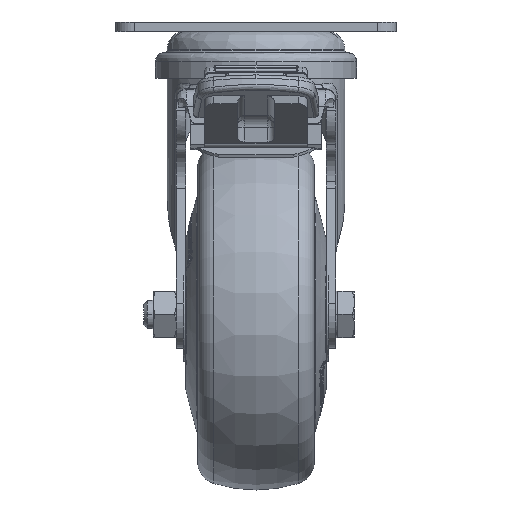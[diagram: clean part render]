
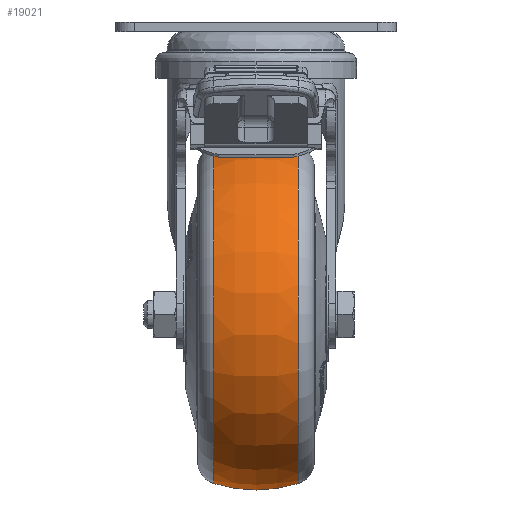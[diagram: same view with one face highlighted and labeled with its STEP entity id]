
A CAD part, top view. The second image highlights one B-rep face of the part: STEP entity #19021.
In plain terms, the highlighted toroidal (fillet/blend) face has major radius 7.5 mm and minor radius 30 mm.
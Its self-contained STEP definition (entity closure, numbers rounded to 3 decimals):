
#19021 = ADVANCED_FACE ( 'NONE', ( #93291 ), #93313, .T. ) ;
#25001 = CARTESIAN_POINT ( 'NONE',  ( -9., 0., 0. ) ) ;
#25003 = DIRECTION ( 'NONE',  ( -1., 0., 0. ) ) ;
#25004 = DIRECTION ( 'NONE',  ( 0., 0., 1. ) ) ;
#25005 = CARTESIAN_POINT ( 'NONE',  ( 0., 0., -7.5 ) ) ;
#25010 = CARTESIAN_POINT ( 'NONE',  ( 0., 0., 7.5 ) ) ;
#25011 = DIRECTION ( 'NONE',  ( 0., 1., 0. ) ) ;
#25012 = DIRECTION ( 'NONE',  ( 0., 0., 1. ) ) ;
#25013 = CARTESIAN_POINT ( 'NONE',  ( 9., 0., 0. ) ) ;
#25015 = DIRECTION ( 'NONE',  ( -1., 0., 0. ) ) ;
#25016 = DIRECTION ( 'NONE',  ( 0., 0., 1. ) ) ;
#25017 = DIRECTION ( 'NONE',  ( 0., -1., 0. ) ) ;
#25018 = DIRECTION ( 'NONE',  ( 0., 0., -1. ) ) ;
#28235 = AXIS2_PLACEMENT_3D ( 'NONE', #25001, #25003, #25004 ) ;
#28238 = AXIS2_PLACEMENT_3D ( 'NONE', #25013, #25015, #25016 ) ;
#28241 = AXIS2_PLACEMENT_3D ( 'NONE', #25005, #25011, #25012 ) ;
#28243 = AXIS2_PLACEMENT_3D ( 'NONE', #25010, #25017, #25018 ) ;
#28821 = CIRCLE ( 'NONE', #28235, 36.118 ) ;
#28829 = CIRCLE ( 'NONE', #28241, 30. ) ;
#28832 = CIRCLE ( 'NONE', #28238, 36.118 ) ;
#28836 = CIRCLE ( 'NONE', #28243, 30. ) ;
#44552 = EDGE_CURVE ( 'NONE', #104578, #104585, #28821, .T. ) ;
#44555 = EDGE_CURVE ( 'NONE', #104607, #104585, #28829, .T. ) ;
#44556 = EDGE_CURVE ( 'NONE', #104602, #104607, #28832, .T. ) ;
#44557 = EDGE_CURVE ( 'NONE', #104602, #104578, #28836, .T. ) ;
#70269 = CARTESIAN_POINT ( 'NONE',  ( -9., 0., -36.118 ) ) ;
#70277 = CARTESIAN_POINT ( 'NONE',  ( -9., 0., 36.118 ) ) ;
#70292 = CARTESIAN_POINT ( 'NONE',  ( 9., 0., 36.118 ) ) ;
#70296 = CARTESIAN_POINT ( 'NONE',  ( 9., 0., -36.118 ) ) ;
#82660 = ORIENTED_EDGE ( 'NONE', *, *, #44556, .T. ) ;
#82661 = ORIENTED_EDGE ( 'NONE', *, *, #44555, .T. ) ;
#82663 = ORIENTED_EDGE ( 'NONE', *, *, #44552, .F. ) ;
#82665 = ORIENTED_EDGE ( 'NONE', *, *, #44557, .F. ) ;
#93291 = FACE_OUTER_BOUND ( 'NONE', #100046, .T. ) ;
#93313 = TOROIDAL_SURFACE ( 'NONE', #98487, 7.5, 30. ) ;
#94608 = DIRECTION ( 'NONE',  ( -1., 0., 0. ) ) ;
#94610 = CARTESIAN_POINT ( 'NONE',  ( 0., 0., 0. ) ) ;
#94619 = DIRECTION ( 'NONE',  ( 0., 0., 1. ) ) ;
#98487 = AXIS2_PLACEMENT_3D ( 'NONE', #94610, #94608, #94619 ) ;
#100046 = EDGE_LOOP ( 'NONE', ( #82660, #82661, #82663, #82665 ) ) ;
#104578 = VERTEX_POINT ( 'NONE', #70277 ) ;
#104585 = VERTEX_POINT ( 'NONE', #70269 ) ;
#104602 = VERTEX_POINT ( 'NONE', #70292 ) ;
#104607 = VERTEX_POINT ( 'NONE', #70296 ) ;
